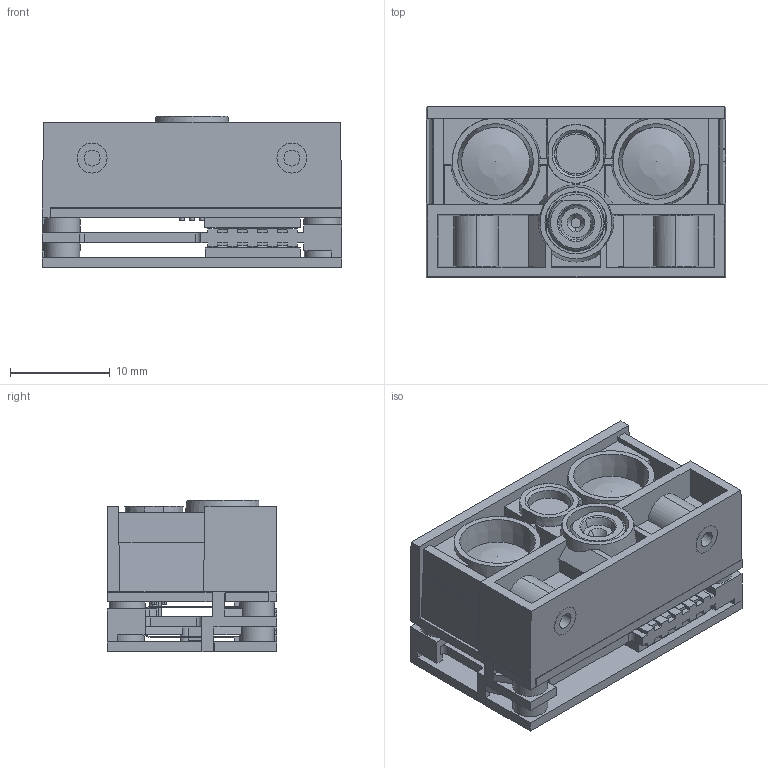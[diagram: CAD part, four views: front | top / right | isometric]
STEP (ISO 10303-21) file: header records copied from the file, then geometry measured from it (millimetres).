
FILE_DESCRIPTION(/* description */ (''),/* implementation_level */ '2;1');
FILE_NAME(/* name */ '_model3-2023-0107.stp',/* time_stamp */ '2023-01-07T22:09:23+08:00',/* author */ (''),/* organization */ (''),/* preprocessor_version */ 'ST-DEVELOPER v16.7',/* originating_system */ 'SIEMENS PLM Software NX 12.0',/* authorisation */ '');
FILE_SCHEMA (('AUTOMOTIVE_DESIGN { 1 0 10303 214 3 1 1 1 }'));
Products named in the file (1): Admi2224E3F24byi
Bounding box: 30 x 17 x 15.2 mm (x, y, z)
Volume: 3631.1 mm3; surface area: 8088.5 mm2
Topology: 15 solids, 15 shells, 1918 faces, 10511 edges, 14109 vertices
Faces by surface type: plane 1347, cylinder 424, bspline 63, cone 52, sphere 26, torus 6
Full cylindrical faces by diameter (mm): 1 x2, 1.5 x2, 1.6 x6, 2 x6, 2.8 x4, 3.1 x2, 3.2 x4, 3.5 x8, 3.6 x2, 4 x1, 5.6 x1, 5.7 x1, 6.8 x2, 7.6 x2, 7.9 x2
Entity records: 121536 total; most frequent: DIRECTION 18212, CARTESIAN_POINT 18025, ORIENTED_EDGE 10102, PRESENTATION_STYLE_ASSIGNMENT 6652, AXIS2_PLACEMENT_3D 6169, LINE 5874, VECTOR 5874, STYLED_ITEM 5367
